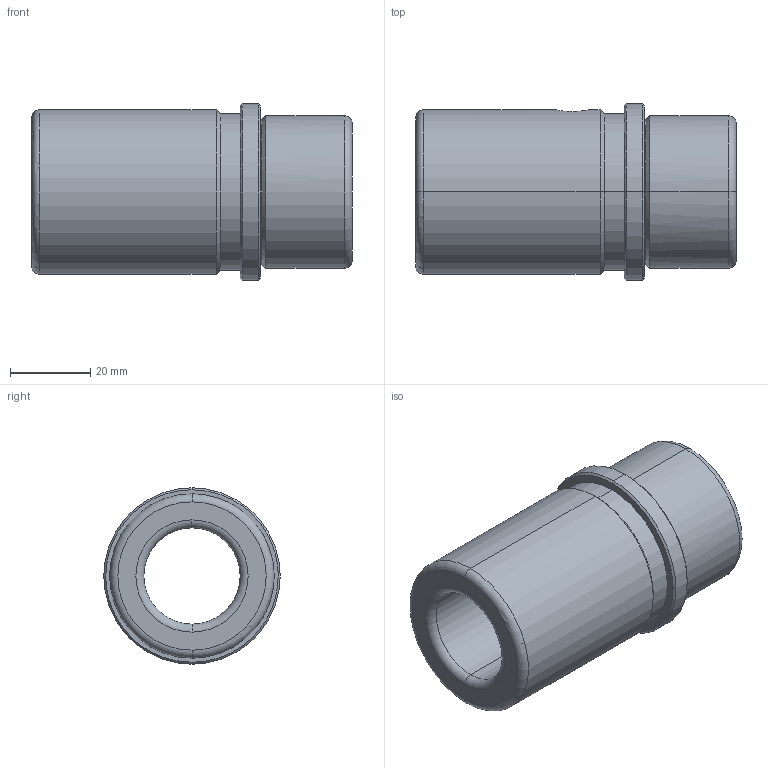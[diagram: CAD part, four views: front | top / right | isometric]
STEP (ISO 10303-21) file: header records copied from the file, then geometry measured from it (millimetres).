
FILE_DESCRIPTION(('CATIA V5 STEP Exchange'),'2;1');
FILE_NAME('C:\Users\Utente\Desktop\IO LAVORO\3D X SITO CF\X SITO\CF 655\CF 655 24 x 80.stp','2020-12-26T14:13:05+00:00',('none'),('none'),'CATIA Version 5 Release 20 GA (IN-10)','CATIA V5 STEP AP203','none');
FILE_SCHEMA(('CONFIG_CONTROL_DESIGN'));
Length unit declared in the file: millimetre
Products named in the file (1): CF 655 24 x 80
Bounding box: 80 x 44 x 44 mm (x, y, z)
Volume: 64273.2 mm3; surface area: 18462 mm2
Topology: 1 solids, 1 shells, 37 faces, 126 edges, 94 vertices
Faces by surface type: cylinder 14, cone 10, torus 8, plane 5
Entity records: 1651 total; most frequent: CARTESIAN_POINT 523, ORIENTED_EDGE 252, DIRECTION 178, EDGE_CURVE 126, AXIS2_PLACEMENT_3D 118, VERTEX_POINT 94, CIRCLE 80, EDGE_LOOP 44
